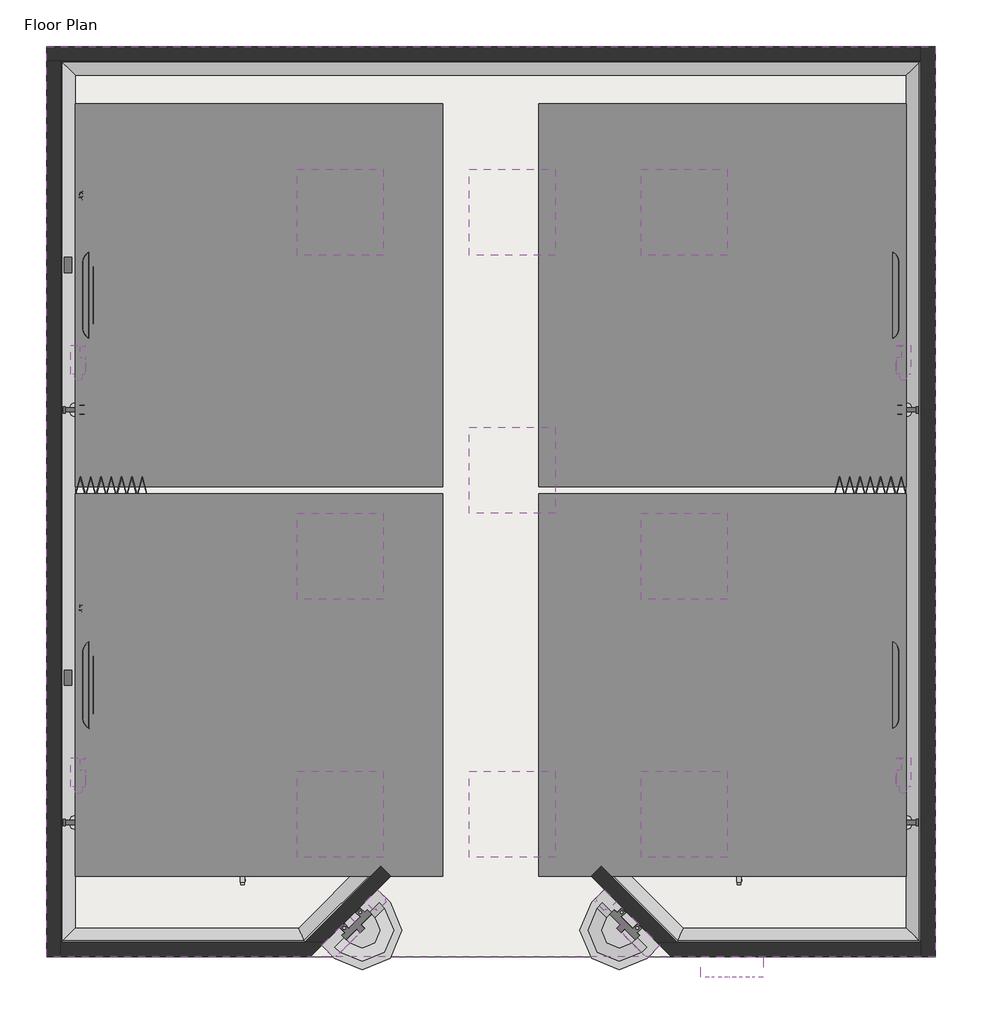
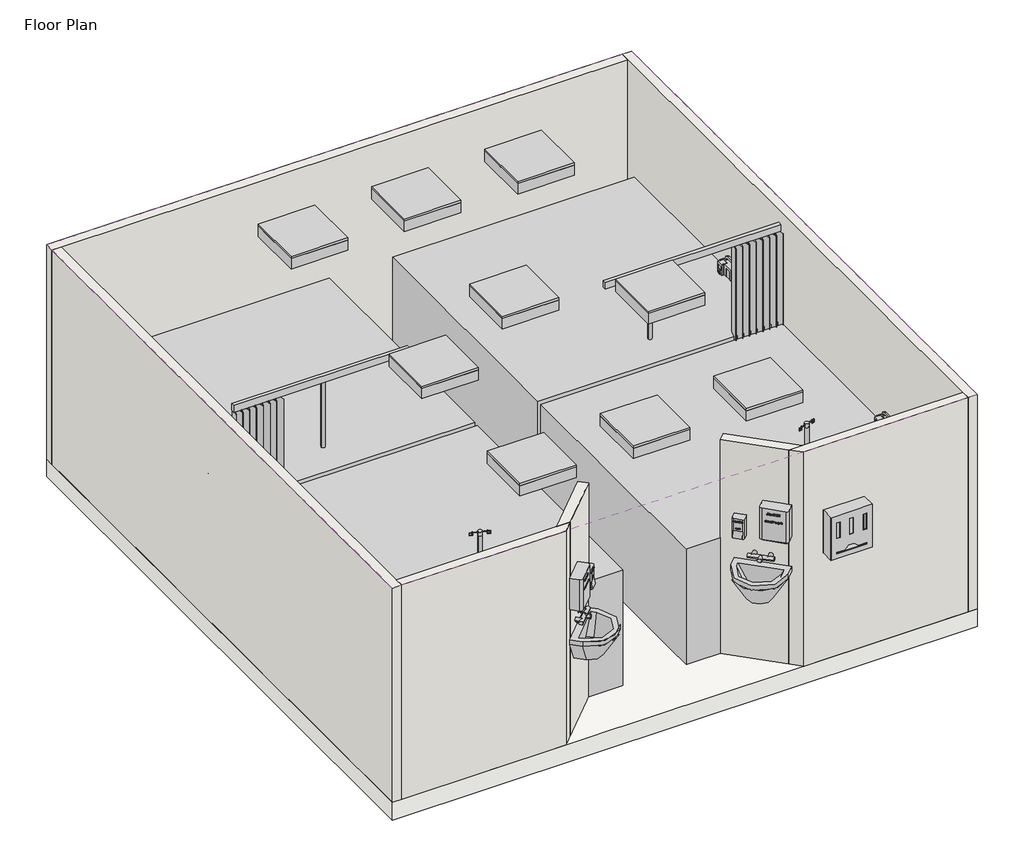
# One storey, incomplete: 26 proxies, 10 furniture elements, 9 light fixtures, 7 walls, 4 flow terminals, 2 slabs, 1 covering.
"""IFC4 building model written with IfcOpenShell, lengths in millimetres."""

from ifc_helpers import new_model, si_unit, frame, origin, place, context, project, spatial, polyline, circle_curve, ellipse_curve, outline, extrude, faceted_brep, transform, mapped, element, save
from ifc_brep_helpers import plane_surface, revolved_surface, advanced_brep
from components import generic_models_cb70edec, generic_models_69a9413b, generic_models_60647dcf, generic_models_1c4e6ef4, generic_models_b7986ebb, generic_models_4addcc0f, generic_models_37f5f703, generic_models_23b3e7a1, generic_models_7e8e4800, type_1_05e54dc7, flow_terminal_9bf15598, flow_terminal_f04b013f, flow_terminal_004a381b, flow_terminal_30861e1c, furniture_961e7f9c, furniture_c0bff915, furniture_4cbdd32b, furniture_c88544d2, furniture_2eee4971, furniture_ab3baf91, furniture_166ce8d1, furniture_26d36cfe, lighting_fixtures_troffer_parabolic_square_600x600mm_2_lamps_e1dca80e

model = new_model("IFC4")

# Units and contexts
model_context = context("Model", 3, world=origin())
ifc_project = project(units=[si_unit("LENGTHUNIT", "METRE", prefix="MILLI")], contexts=[model_context])

# Site, building, storey
site = spatial("IfcSite", under=ifc_project)
building = spatial("IfcBuilding", under=site)
storey = spatial("IfcBuildingStorey", under=building, Name="Floor Plan", Elevation=0.0)

# Proxies
placement = place(None, origin())
element("IfcBuildingElementProxy", 1, Name="Wall Sweeps", at=placement, inside=storey, context=model_context, shape_type="AdvancedBrep", body=[
    advanced_brep(
    [(7705.0, 1607.5, 0.0), (7705.0, 1607.5, 100.0), (7695.0, 1617.5, 100.0), (7605.0, 1707.5, 10.0), (7605.0, 1707.5, 0.0), (7705.0, 7757.5, 0.0), (7605.0, 7657.5, 0.0), (7605.0, 7657.5, 10.0), (7695.0, 7747.5, 100.0), (7705.0, 7757.5, 100.0)],
    [
        (0, 1),
        (1, 2),
        (2, 3, ellipse_curve(frame((7605.0, 1707.5, 100.0), z_axis=(0.7071067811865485, 0.7071067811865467, 0.0), x_axis=(-0.7071067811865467, 0.7071067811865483, 0.0)), 127.2792206, 90.0)),
        (3, 4),
        (4, 0),
        (5, 6),
        (6, 7),
        (7, 8, ellipse_curve(frame((7605.0, 7657.5, 100.0), z_axis=(0.7071067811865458, -0.7071067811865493, 0.0), x_axis=(0.7071067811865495, 0.7071067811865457, 0.0)), 127.2792206, 90.0)),
        (8, 9),
        (9, 5),
        (0, 5),
        (9, 1),
        (8, 2),
        (7, 3),
        (6, 4),
    ],
    [
        plane_surface(frame((7705.0, 1607.5, -304.8), z_axis=(-0.7071067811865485, -0.7071067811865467, 0.0), x_axis=(-0.7071067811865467, 0.7071067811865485, 0.0))),
        plane_surface(frame((7705.0, 7757.5, -304.8), z_axis=(-0.7071067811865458, 0.7071067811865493, 0.0), x_axis=(-0.7071067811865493, -0.7071067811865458, 0.0))),
        plane_surface(frame((7705.0, 1607.5, 0.0), z_axis=(1.0, 0.0, 0.0), x_axis=(0.0, 1.0, 0.0))),
        plane_surface(frame((7705.0, 1607.5, 100.0), z_axis=(0.0, 0.0, 1.0), x_axis=(0.0, 1.0, 0.0))),
        revolved_surface(polyline([(7515.0, 7747.5, 100.0), (7515.0, 1617.5, 100.0)]), (7605.0, 1607.5, 100.0), (0.0, 1.0, 0.0)),
        plane_surface(frame((7605.0, 1707.5, 10.0), z_axis=(-1.0, 0.0, 0.0), x_axis=(0.0, 1.0, 0.0))),
        plane_surface(frame((7605.0, 1707.5, 0.0), z_axis=(0.0, 0.0, -1.0), x_axis=(0.0, 1.0, 0.0))),
    ],
    [
        (0, [[1, 2, 3, 4, 5]]),
        (1, [[6, 7, 8, 9, 10]]),
        (2, [[-1, 11, -10, 12]]),
        (3, [[-2, -12, -9, 13]]),
        (4, [[-3, -13, -8, 14]]),
        (5, [[-4, -14, -7, 15]]),
        (6, [[-5, -15, -6, -11]]),
    ],
),
])
element("IfcBuildingElementProxy", 2, Name="Wall Sweeps", at=placement, inside=storey, context=model_context, shape_type="AdvancedBrep", body=[
    advanced_brep(
    [(7705.0, 7757.5, 0.0), (7705.0, 7757.5, 100.0), (7695.0, 7747.5, 100.0), (7605.0, 7657.5, 10.0), (7605.0, 7657.5, 0.0), (1705.0, 7757.5, 0.0), (1805.0, 7657.5, 0.0), (1805.0, 7657.5, 10.0), (1715.0, 7747.5, 100.0), (1705.0, 7757.5, 100.0)],
    [
        (0, 1),
        (1, 2),
        (2, 3, ellipse_curve(frame((7605.0, 7657.5, 100.0), z_axis=(-0.7071067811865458, 0.7071067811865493, 0.0), x_axis=(-0.7071067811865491, -0.7071067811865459, 0.0)), 127.2792206, 90.0)),
        (3, 4),
        (4, 0),
        (5, 6),
        (6, 7),
        (7, 8, ellipse_curve(frame((1805.0, 7657.5, 100.0), z_axis=(0.7071067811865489, 0.7071067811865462, 0.0), x_axis=(-0.7071067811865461, 0.7071067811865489, 0.0)), 127.2792206, 90.0)),
        (8, 9),
        (9, 5),
        (0, 5),
        (9, 1),
        (8, 2),
        (7, 3),
        (6, 4),
    ],
    [
        plane_surface(frame((7705.0, 7757.5, -304.8), z_axis=(0.7071067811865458, -0.7071067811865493, 0.0), x_axis=(-0.7071067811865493, -0.7071067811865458, 0.0))),
        plane_surface(frame((1705.0, 7757.5, -304.8), z_axis=(-0.7071067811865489, -0.7071067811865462, 0.0), x_axis=(0.7071067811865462, -0.7071067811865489, 0.0))),
        plane_surface(frame((7705.0, 7757.5, 0.0), z_axis=(0.0, 1.0, 0.0), x_axis=(-1.0, 0.0, 0.0))),
        plane_surface(frame((7705.0, 7757.5, 100.0), z_axis=(0.0, 0.0, 1.0), x_axis=(-1.0, 0.0, 0.0))),
        revolved_surface(polyline([(1715.0, 7567.5, 100.0), (7695.0, 7567.5, 100.0)]), (7705.0, 7657.5, 100.0), (-1.0, 0.0, 0.0)),
        plane_surface(frame((7605.0, 7657.5, 10.0), z_axis=(0.0, -1.0, 0.0), x_axis=(-1.0, 0.0, 0.0))),
        plane_surface(frame((7605.0, 7657.5, 0.0), z_axis=(0.0, 0.0, -1.0), x_axis=(-1.0, 0.0, 0.0))),
    ],
    [
        (0, [[1, 2, 3, 4, 5]]),
        (1, [[6, 7, 8, 9, 10]]),
        (2, [[-1, 11, -10, 12]]),
        (3, [[-2, -12, -9, 13]]),
        (4, [[-3, -13, -8, 14]]),
        (5, [[-4, -14, -7, 15]]),
        (6, [[-5, -15, -6, -11]]),
    ],
),
])
element("IfcBuildingElementProxy", 3, Name="Wall Sweeps", at=placement, inside=storey, context=model_context, shape_type="AdvancedBrep", body=[
    advanced_brep(
    [(1705.0, 1607.5, 0.0), (1805.0, 1707.5, 0.0), (1805.0, 1707.5, 10.0), (1715.0, 1617.5, 100.0), (1705.0, 1607.5, 100.0), (1705.0, 7757.5, 0.0), (1705.0, 7757.5, 100.0), (1715.0, 7747.5, 100.0), (1805.0, 7657.5, 10.0), (1805.0, 7657.5, 0.0)],
    [
        (0, 1),
        (1, 2),
        (2, 3, ellipse_curve(frame((1805.0, 1707.5, 100.0), z_axis=(-0.707106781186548, 0.7071067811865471, 0.0), x_axis=(0.7071067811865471, 0.7071067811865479, 0.0)), 127.2792206, 90.0)),
        (3, 4),
        (4, 0),
        (5, 6),
        (6, 7),
        (7, 8, ellipse_curve(frame((1805.0, 7657.5, 100.0), z_axis=(-0.7071067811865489, -0.7071067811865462, 0.0), x_axis=(-0.7071067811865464, 0.7071067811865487, 0.0)), 127.2792206, 90.0)),
        (8, 9),
        (9, 5),
        (4, 6),
        (5, 0),
        (3, 7),
        (2, 8),
        (1, 9),
    ],
    [
        plane_surface(frame((1705.0, 1607.5, 304.8), z_axis=(0.707106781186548, -0.7071067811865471, 0.0), x_axis=(0.7071067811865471, 0.707106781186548, 0.0))),
        plane_surface(frame((1705.0, 7757.5, 304.8), z_axis=(0.7071067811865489, 0.7071067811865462, 0.0), x_axis=(0.7071067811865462, -0.7071067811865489, 0.0))),
        plane_surface(frame((1705.0, 1607.5, 100.0), z_axis=(-1.0, 0.0, 0.0), x_axis=(0.0, 1.0, 0.0))),
        plane_surface(frame((1715.0, 1617.5, 100.0), z_axis=(0.0, 0.0, 1.0), x_axis=(0.0, 1.0, 0.0))),
        revolved_surface(polyline([(1895.0, 7747.5, 100.0), (1895.0, 1617.5, 100.0)]), (1805.0, 1607.5, 100.0), (0.0, 1.0, 0.0)),
        plane_surface(frame((1805.0, 1707.5, 0.0), z_axis=(1.0, 0.0, 0.0), x_axis=(0.0, 1.0, 0.0))),
        plane_surface(frame((1705.0, 1607.5, 0.0), z_axis=(0.0, 0.0, -1.0), x_axis=(0.0, 1.0, 0.0))),
    ],
    [
        (0, [[1, 2, 3, 4, 5]]),
        (1, [[6, 7, 8, 9, 10]]),
        (2, [[-5, 11, -6, 12]]),
        (3, [[-4, 13, -7, -11]]),
        (4, [[-3, 14, -8, -13]]),
        (5, [[-2, 15, -9, -14]]),
        (6, [[-1, -12, -10, -15]]),
    ],
),
])
element("IfcBuildingElementProxy", 4, Name="Wall Sweeps", at=placement, inside=storey, context=model_context, shape_type="AdvancedBrep", body=[
    advanced_brep(
    [(1705.0, 1607.5, 0.0), (1705.0, 1607.5, 100.0), (1715.0, 1617.5, 100.0), (1805.0, 1707.5, 10.0), (1805.0, 1707.5, 0.0), (3405.0, 1607.5, 0.0), (3363.5786438, 1707.5, 0.0), (3363.5786438, 1707.5, 10.0), (3400.8578644, 1617.5, 100.0), (3405.0, 1607.5, 100.0)],
    [
        (0, 1),
        (1, 2),
        (2, 3, ellipse_curve(frame((1805.0, 1707.5, 100.0), z_axis=(0.707106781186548, -0.7071067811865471, 0.0), x_axis=(0.707106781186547, 0.707106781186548, 0.0)), 127.2792206, 90.0)),
        (3, 4),
        (4, 0),
        (5, 6),
        (6, 7),
        (7, 8, ellipse_curve(frame((3363.5786438, 1707.5, 100.0), z_axis=(-0.923879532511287, -0.3826834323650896, 0.0), x_axis=(0.38268343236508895, -0.9238795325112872, 0.0)), 97.415298, 90.0)),
        (8, 9),
        (9, 5),
        (0, 5),
        (9, 1),
        (8, 2),
        (7, 3),
        (6, 4),
    ],
    [
        plane_surface(frame((1705.0, 1607.5, -304.8), z_axis=(-0.707106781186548, 0.7071067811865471, 0.0), x_axis=(0.7071067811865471, 0.707106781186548, 0.0))),
        plane_surface(frame((3405.0, 1607.5, -304.8), z_axis=(0.923879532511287, 0.3826834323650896, 0.0), x_axis=(-0.3826834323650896, 0.923879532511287, 0.0))),
        plane_surface(frame((1705.0, 1607.5, 0.0), z_axis=(0.0, -1.0, 0.0), x_axis=(1.0, 0.0, 0.0))),
        plane_surface(frame((1705.0, 1607.5, 100.0), z_axis=(0.0, 0.0, 1.0), x_axis=(1.0, 0.0, 0.0))),
        revolved_surface(polyline([(3400.857864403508, 1797.5, 100.0), (1715.0, 1797.5, 100.0)]), (1705.0, 1707.5, 100.0), (1.0, 0.0, 0.0)),
        plane_surface(frame((1805.0, 1707.5, 10.0), z_axis=(0.0, 1.0, 0.0), x_axis=(1.0, 0.0, 0.0))),
        plane_surface(frame((1805.0, 1707.5, 0.0), z_axis=(0.0, 0.0, -1.0), x_axis=(1.0, 0.0, 0.0))),
    ],
    [
        (0, [[1, 2, 3, 4, 5]]),
        (1, [[6, 7, 8, 9, 10]]),
        (2, [[-1, 11, -10, 12]]),
        (3, [[-2, -12, -9, 13]]),
        (4, [[-3, -13, -8, 14]]),
        (5, [[-4, -14, -7, 15]]),
        (6, [[-5, -15, -6, -11]]),
    ],
),
])
element("IfcBuildingElementProxy", 5, Name="Wall Sweeps", at=placement, inside=storey, context=model_context, shape_type="AdvancedBrep", body=[
    advanced_brep(
    [(3405.0, 1607.5, 0.0), (3405.0, 1607.5, 100.0), (3400.8578644, 1617.5, 100.0), (3363.5786438, 1707.5, 10.0), (3363.5786438, 1707.5, 0.0), (3935.3300859, 2137.8300859, 0.0), (3864.6194078, 2208.540764, 0.0), (3864.6194078, 2208.540764, 10.0), (3928.2590181, 2144.9011537, 100.0), (3935.3300859, 2137.8300859, 100.0)],
    [
        (0, 1),
        (1, 2),
        (2, 3, ellipse_curve(frame((3363.5786438, 1707.5, 100.0), z_axis=(0.923879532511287, 0.3826834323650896, 0.0), x_axis=(-0.3826834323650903, 0.9238795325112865, 0.0)), 97.415298, 90.0)),
        (3, 4),
        (4, 0),
        (5, 6),
        (6, 7),
        (7, 8, circle_curve(frame((3864.6194078, 2208.540764, 100.0), z_axis=(-0.7071067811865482, -0.7071067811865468, 0.0), x_axis=(-0.7071067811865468, 0.7071067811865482, 0.0)), 90.0)),
        (8, 9),
        (9, 5),
        (0, 5),
        (9, 1),
        (8, 2),
        (7, 3),
        (6, 4),
    ],
    [
        plane_surface(frame((3405.0, 1607.5, -304.8), z_axis=(-0.923879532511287, -0.3826834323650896, 0.0), x_axis=(-0.3826834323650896, 0.923879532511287, 0.0))),
        plane_surface(frame((3935.3300859, 2137.8300859, 100.4987562), z_axis=(0.7071067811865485, 0.7071067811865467, 0.0), x_axis=(0.7071067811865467, -0.7071067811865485, 0.0))),
        plane_surface(frame((3405.0, 1607.5, 0.0), z_axis=(0.7071067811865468, -0.7071067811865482, 0.0), x_axis=(0.7071067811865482, 0.7071067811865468, 0.0))),
        plane_surface(frame((3405.0, 1607.5, 100.0), z_axis=(0.0, 0.0, 1.0), x_axis=(0.7071067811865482, 0.7071067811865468, 0.0))),
        revolved_surface(polyline([(3800.9797974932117, 2272.180374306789, 100.0), (3273.5786437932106, 1744.7792206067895, 100.0)]), (3334.2893219, 1678.2106781, 100.0), (0.7071067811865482, 0.7071067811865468, 0.0)),
        plane_surface(frame((3363.5786438, 1707.5, 10.0), z_axis=(-0.7071067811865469, 0.7071067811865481, 0.0), x_axis=(0.7071067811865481, 0.7071067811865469, 0.0))),
        plane_surface(frame((3363.5786438, 1707.5, 0.0), z_axis=(0.0, 0.0, -1.0), x_axis=(0.7071067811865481, 0.7071067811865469, 0.0))),
    ],
    [
        (0, [[1, 2, 3, 4, 5]]),
        (1, [[6, 7, 8, 9, 10]]),
        (2, [[-1, 11, -10, 12]]),
        (3, [[-2, -12, -9, 13]]),
        (4, [[-3, -13, -8, 14]]),
        (5, [[-4, -14, -7, 15]]),
        (6, [[-5, -15, -6, -11]]),
    ],
),
])
element("IfcBuildingElementProxy", 6, Name="Wall Sweeps", at=placement, inside=storey, context=model_context, shape_type="AdvancedBrep", body=[
    advanced_brep(
    [(7705.0, 1607.5, 0.0), (7605.0, 1707.5, 0.0), (7605.0, 1707.5, 10.0), (7695.0, 1617.5, 100.0), (7705.0, 1607.5, 100.0), (6005.0, 1607.5, 0.0), (6005.0, 1607.5, 100.0), (6009.1421356, 1617.5, 100.0), (6046.4213562, 1707.5, 10.0), (6046.4213562, 1707.5, 0.0)],
    [
        (0, 1),
        (1, 2),
        (2, 3, ellipse_curve(frame((7605.0, 1707.5, 100.0), z_axis=(-0.7071067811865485, -0.7071067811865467, 0.0), x_axis=(-0.7071067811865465, 0.7071067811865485, 0.0)), 127.2792206, 90.0)),
        (3, 4),
        (4, 0),
        (5, 6),
        (6, 7),
        (7, 8, ellipse_curve(frame((6046.4213562, 1707.5, 100.0), z_axis=(0.9238795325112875, -0.38268343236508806, 0.0), x_axis=(-0.38268343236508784, -0.9238795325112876, 0.0)), 97.415298, 90.0)),
        (8, 9),
        (9, 5),
        (4, 6),
        (5, 0),
        (3, 7),
        (2, 8),
        (1, 9),
    ],
    [
        plane_surface(frame((7705.0, 1607.5, 304.8), z_axis=(0.7071067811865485, 0.7071067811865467, 0.0), x_axis=(-0.7071067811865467, 0.7071067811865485, 0.0))),
        plane_surface(frame((6005.0, 1607.5, 304.8), z_axis=(-0.9238795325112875, 0.38268343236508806, 0.0), x_axis=(0.38268343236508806, 0.9238795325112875, 0.0))),
        plane_surface(frame((7705.0, 1607.5, 100.0), z_axis=(0.0, -1.0, 0.0), x_axis=(-1.0, 0.0, 0.0))),
        plane_surface(frame((7695.0, 1617.5, 100.0), z_axis=(0.0, 0.0, 1.0), x_axis=(-1.0, 0.0, 0.0))),
        revolved_surface(polyline([(6009.142135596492, 1797.5, 100.0), (7695.0, 1797.5, 100.0)]), (7705.0, 1707.5, 100.0), (-1.0, 0.0, 0.0)),
        plane_surface(frame((7605.0, 1707.5, 0.0), z_axis=(0.0, 1.0, 0.0), x_axis=(-1.0, 0.0, 0.0))),
        plane_surface(frame((7705.0, 1607.5, 0.0), z_axis=(0.0, 0.0, -1.0), x_axis=(-1.0, 0.0, 0.0))),
    ],
    [
        (0, [[1, 2, 3, 4, 5]]),
        (1, [[6, 7, 8, 9, 10]]),
        (2, [[-5, 11, -6, 12]]),
        (3, [[-4, 13, -7, -11]]),
        (4, [[-3, 14, -8, -13]]),
        (5, [[-2, 15, -9, -14]]),
        (6, [[-1, -12, -10, -15]]),
    ],
),
])
element("IfcBuildingElementProxy", 7, Name="Wall Sweeps", at=placement, inside=storey, context=model_context, shape_type="AdvancedBrep", body=[
    advanced_brep(
    [(6005.0, 1607.5, 0.0), (6046.4213562, 1707.5, 0.0), (6046.4213562, 1707.5, 10.0), (6009.1421356, 1617.5, 100.0), (6005.0, 1607.5, 100.0), (5474.6699141, 2137.8300859, 0.0), (5474.6699141, 2137.8300859, 100.0), (5481.7409819, 2144.9011537, 100.0), (5545.3805922, 2208.540764, 10.0), (5545.3805922, 2208.540764, 0.0)],
    [
        (0, 1),
        (1, 2),
        (2, 3, ellipse_curve(frame((6046.4213562, 1707.5, 100.0), z_axis=(-0.9238795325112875, 0.38268343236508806, 0.0), x_axis=(0.38268343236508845, 0.9238795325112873, 0.0)), 97.415298, 90.0)),
        (3, 4),
        (4, 0),
        (5, 6),
        (6, 7),
        (7, 8, circle_curve(frame((5545.3805922, 2208.540764, 100.0), z_axis=(0.7071067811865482, -0.7071067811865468, 0.0), x_axis=(0.7071067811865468, 0.7071067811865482, 0.0)), 90.0)),
        (8, 9),
        (9, 5),
        (4, 6),
        (5, 0),
        (3, 7),
        (2, 8),
        (1, 9),
    ],
    [
        plane_surface(frame((6005.0, 1607.5, 304.8), z_axis=(0.9238795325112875, -0.38268343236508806, 0.0), x_axis=(0.38268343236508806, 0.9238795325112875, 0.0))),
        plane_surface(frame((5474.6699141, 2137.8300859, 100.4987562), z_axis=(-0.7071067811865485, 0.7071067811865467, 0.0), x_axis=(0.7071067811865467, 0.7071067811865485, 0.0))),
        plane_surface(frame((6005.0, 1607.5, 100.0), z_axis=(-0.707106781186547, -0.7071067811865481, 0.0), x_axis=(-0.7071067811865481, 0.707106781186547, 0.0))),
        plane_surface(frame((6009.1421356, 1617.5, 100.0), z_axis=(0.0, 0.0, 1.0000000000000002), x_axis=(-0.7071067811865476, 0.7071067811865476, 0.0))),
        revolved_surface(polyline([(5609.020202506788, 2272.180374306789, 100.0), (6136.421356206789, 1744.7792206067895, 100.0)]), (6075.7106781, 1678.2106781, 100.0), (-0.7071067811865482, 0.7071067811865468, 0.0)),
        plane_surface(frame((6046.4213562, 1707.5, 0.0), z_axis=(0.7071067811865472, 0.7071067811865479, 0.0), x_axis=(-0.7071067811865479, 0.7071067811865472, 0.0))),
        plane_surface(frame((6005.0, 1607.5, 0.0), z_axis=(0.0, 0.0, -1.0000000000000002), x_axis=(-0.7071067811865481, 0.707106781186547, 0.0))),
    ],
    [
        (0, [[1, 2, 3, 4, 5]]),
        (1, [[6, 7, 8, 9, 10]]),
        (2, [[-5, 11, -6, 12]]),
        (3, [[-4, 13, -7, -11]]),
        (4, [[-3, 14, -8, -13]]),
        (5, [[-2, 15, -9, -14]]),
        (6, [[-1, -12, -10, -15]]),
    ],
),
])
generic_models_shape = generic_models_cb70edec(model_context)
element("IfcBuildingElementProxy", 8, Name="BIMHealth-IV_Pump-LOD2A-v1 : BIMHealth-IV_Pump-LOD2A-v1", ObjectType="BIMHealth-IV_Pump-LOD2A-v1 : BIMHealth-IV_Pump-LOD2A-v1", at=placement, inside=storey, context=model_context, shape_type="MappedRepresentation", body=[
    mapped(generic_models_shape, transform((1773.7887439, 2692.5, 0.0), x_axis=(0.0, 1.0, 0.0), y_axis=(-1.0, 0.0, 0.0), z_axis=(0.0, 0.0, 1.0))),
])
element("IfcBuildingElementProxy", 9, Name="BIMHealth-IV_Pump-LOD2A-v1 : BIMHealth-IV_Pump-LOD2A-v1", ObjectType="BIMHealth-IV_Pump-LOD2A-v1 : BIMHealth-IV_Pump-LOD2A-v1", at=placement, inside=storey, context=model_context, shape_type="MappedRepresentation", body=[
    mapped(generic_models_shape, transform((1773.7887439, 5572.5, 0.0), x_axis=(0.0, 1.0, 0.0), y_axis=(-1.0, 0.0, 0.0), z_axis=(0.0, 0.0, 1.0))),
])
generic_models_2_shape = generic_models_69a9413b(model_context)
element("IfcBuildingElementProxy", 10, Name="BIMHealth-Drip_Stand-LOD2A-v1 : BIMHealth-Drip_Stand-LOD2A-v1", ObjectType="BIMHealth-Drip_Stand-LOD2A-v1 : BIMHealth-Drip_Stand-LOD2A-v1", at=placement, inside=storey, context=model_context, shape_type="MappedRepresentation", body=[
    mapped(generic_models_2_shape, transform((2972.893231, 2269.9598867, 0.0), x_axis=(1.0, 0.0, 0.0), y_axis=(0.0, 1.0, 0.0), z_axis=(0.0, 0.0, 1.0))),
])
element("IfcBuildingElementProxy", 11, Name="BIMHealth-Drip_Stand-LOD2A-v1 : BIMHealth-Drip_Stand-LOD2A-v1", ObjectType="BIMHealth-Drip_Stand-LOD2A-v1 : BIMHealth-Drip_Stand-LOD2A-v1", at=placement, inside=storey, context=model_context, shape_type="MappedRepresentation", body=[
    mapped(generic_models_2_shape, transform((2972.893231, 5149.9598867, 0.0), x_axis=(1.0, 0.0, 0.0), y_axis=(0.0, 1.0, 0.0), z_axis=(0.0, 0.0, 1.0))),
])
generic_models_3_shape = generic_models_60647dcf(model_context)
element("IfcBuildingElementProxy", 12, Name="BIMHealth-Flowmeter_Oxygen-LOD2A-v1 : BIMHealth-Flowmeter_Oxygen-LOD2A-v1", ObjectType="BIMHealth-Flowmeter_Oxygen-LOD2A-v1 : BIMHealth-Flowmeter_Oxygen-LOD2A-v1", at=placement, inside=storey, context=model_context, shape_type="MappedRepresentation", body=[
    mapped(generic_models_3_shape, transform((1867.9451551, 2576.5548449, 0.0), x_axis=(0.0, -1.0, 0.0), y_axis=(1.0, 0.0, 0.0), z_axis=(0.0, 0.0, 1.0))),
])
element("IfcBuildingElementProxy", 13, Name="BIMHealth-Flowmeter_Oxygen-LOD2A-v1 : BIMHealth-Flowmeter_Oxygen-LOD2A-v1", ObjectType="BIMHealth-Flowmeter_Oxygen-LOD2A-v1 : BIMHealth-Flowmeter_Oxygen-LOD2A-v1", at=placement, inside=storey, context=model_context, shape_type="MappedRepresentation", body=[
    mapped(generic_models_3_shape, transform((1867.9451551, 5456.5548449, 0.0), x_axis=(0.0, -1.0, 0.0), y_axis=(1.0, 0.0, 0.0), z_axis=(0.0, 0.0, 1.0))),
])
generic_models_4_shape = generic_models_1c4e6ef4(model_context)
element("IfcBuildingElementProxy", 14, Name="BIMHealth-Flowmeter_Suction-LOD2A-v1 : BIMHealth-Flowmeter_Suction-LOD2A-v1", ObjectType="BIMHealth-Flowmeter_Suction-LOD2A-v1 : BIMHealth-Flowmeter_Suction-LOD2A-v1", at=placement, inside=storey, context=model_context, shape_type="MappedRepresentation", body=[
    mapped(generic_models_4_shape, transform((1836.579015, 2444.079015, 0.0), x_axis=(0.0, 1.0000000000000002, 0.0), y_axis=(-1.0000000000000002, 0.0, 0.0), z_axis=(0.0, 0.0, 1.0))),
])
element("IfcBuildingElementProxy", 15, Name="BIMHealth-Flowmeter_Suction-LOD2A-v1 : BIMHealth-Flowmeter_Suction-LOD2A-v1", ObjectType="BIMHealth-Flowmeter_Suction-LOD2A-v1 : BIMHealth-Flowmeter_Suction-LOD2A-v1", at=placement, inside=storey, context=model_context, shape_type="MappedRepresentation", body=[
    mapped(generic_models_4_shape, transform((1836.579015, 5324.079015, 0.0), x_axis=(0.0, 1.0000000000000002, 0.0), y_axis=(-1.0000000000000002, 0.0, 0.0), z_axis=(0.0, 0.0, 1.0))),
])
generic_models_5_shape = generic_models_b7986ebb(model_context)
element("IfcBuildingElementProxy", 16, Name="BIMHealth-Drip_Stand-LOD2A-v1 : BIMHealth-Drip_Stand-LOD2A-v1", ObjectType="BIMHealth-Drip_Stand-LOD2A-v1 : BIMHealth-Drip_Stand-LOD2A-v1", at=placement, inside=storey, context=model_context, shape_type="MappedRepresentation", body=[
    mapped(generic_models_5_shape, transform((6437.106769, 2269.9598867, 0.0), x_axis=(-1.0, 0.0, 0.0), y_axis=(0.0, -1.0, 0.0), z_axis=(0.0, 0.0, 1.0))),
])
element("IfcBuildingElementProxy", 17, Name="BIMHealth-Drip_Stand-LOD2A-v1 : BIMHealth-Drip_Stand-LOD2A-v1", ObjectType="BIMHealth-Drip_Stand-LOD2A-v1 : BIMHealth-Drip_Stand-LOD2A-v1", at=placement, inside=storey, context=model_context, shape_type="MappedRepresentation", body=[
    mapped(generic_models_5_shape, transform((6437.106769, 5149.9598867, 0.0), x_axis=(-1.0, 0.0, 0.0), y_axis=(0.0, -1.0, 0.0), z_axis=(0.0, 0.0, 1.0))),
])
generic_models_6_shape = generic_models_4addcc0f(model_context)
element("IfcBuildingElementProxy", 18, Name="BIMHealth-Flowmeter_Suction-LOD2A-v1 : BIMHealth-Flowmeter_Suction-LOD2A-v1", ObjectType="BIMHealth-Flowmeter_Suction-LOD2A-v1 : BIMHealth-Flowmeter_Suction-LOD2A-v1", at=placement, inside=storey, context=model_context, shape_type="MappedRepresentation", body=[
    mapped(generic_models_6_shape, transform((7573.420985, 2444.079015, 0.0), x_axis=(0.0, 1.0000000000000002, 0.0), y_axis=(-1.0000000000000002, 0.0, 0.0), z_axis=(0.0, 0.0, 1.0))),
])
element("IfcBuildingElementProxy", 19, Name="BIMHealth-Flowmeter_Suction-LOD2A-v1 : BIMHealth-Flowmeter_Suction-LOD2A-v1", ObjectType="BIMHealth-Flowmeter_Suction-LOD2A-v1 : BIMHealth-Flowmeter_Suction-LOD2A-v1", at=placement, inside=storey, context=model_context, shape_type="MappedRepresentation", body=[
    mapped(generic_models_6_shape, transform((7573.420985, 5324.079015, 0.0), x_axis=(0.0, 1.0000000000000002, 0.0), y_axis=(-1.0000000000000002, 0.0, 0.0), z_axis=(0.0, 0.0, 1.0))),
])
generic_models_7_shape = generic_models_37f5f703(model_context)
element("IfcBuildingElementProxy", 20, Name="BIMHealth-Flowmeter_Oxygen-LOD2A-v1 : BIMHealth-Flowmeter_Oxygen-LOD2A-v1", ObjectType="BIMHealth-Flowmeter_Oxygen-LOD2A-v1 : BIMHealth-Flowmeter_Oxygen-LOD2A-v1", at=placement, inside=storey, context=model_context, shape_type="MappedRepresentation", body=[
    mapped(generic_models_7_shape, transform((7542.0548449, 2576.5548449, 0.0), x_axis=(0.0, -1.0, 0.0), y_axis=(1.0, 0.0, 0.0), z_axis=(0.0, 0.0, 1.0))),
])
element("IfcBuildingElementProxy", 21, Name="BIMHealth-Flowmeter_Oxygen-LOD2A-v1 : BIMHealth-Flowmeter_Oxygen-LOD2A-v1", ObjectType="BIMHealth-Flowmeter_Oxygen-LOD2A-v1 : BIMHealth-Flowmeter_Oxygen-LOD2A-v1", at=placement, inside=storey, context=model_context, shape_type="MappedRepresentation", body=[
    mapped(generic_models_7_shape, transform((7542.0548449, 5456.5548449, 0.0), x_axis=(0.0, -1.0, 0.0), y_axis=(1.0, 0.0, 0.0), z_axis=(0.0, 0.0, 1.0))),
])
generic_models_8_shape = generic_models_23b3e7a1(model_context)
element("IfcBuildingElementProxy", 22, Name="BIMHealth-IV_Pump-LOD2A-v1 : BIMHealth-IV_Pump-LOD2A-v1", ObjectType="BIMHealth-IV_Pump-LOD2A-v1 : BIMHealth-IV_Pump-LOD2A-v1", at=placement, inside=storey, context=model_context, shape_type="MappedRepresentation", body=[
    mapped(generic_models_8_shape, transform((7636.2112561, 2692.5, 0.0), x_axis=(0.0, 1.0, 0.0), y_axis=(-1.0, 0.0, 0.0), z_axis=(0.0, 0.0, 1.0))),
])
element("IfcBuildingElementProxy", 23, Name="BIMHealth-IV_Pump-LOD2A-v1 : BIMHealth-IV_Pump-LOD2A-v1", ObjectType="BIMHealth-IV_Pump-LOD2A-v1 : BIMHealth-IV_Pump-LOD2A-v1", at=placement, inside=storey, context=model_context, shape_type="MappedRepresentation", body=[
    mapped(generic_models_8_shape, transform((7636.2112561, 5572.5, 0.0), x_axis=(0.0, 1.0, 0.0), y_axis=(-1.0, 0.0, 0.0), z_axis=(0.0, 0.0, 1.0))),
])
generic_models_9_shape = generic_models_7e8e4800(model_context)
element("IfcBuildingElementProxy", 24, Name="BIMHealth-Danicentre_ppe_Dispenser-LOD2A-v1 : BIMHealth-Danicentre_ppe_Dispenser-LOD2A-v1", ObjectType="BIMHealth-Danicentre_ppe_Dispenser-LOD2A-v1 : BIMHealth-Danicentre_ppe_Dispenser-LOD2A-v1", at=placement, inside=storey, context=model_context, shape_type="MappedRepresentation", body=[
    mapped(generic_models_9_shape, transform((6605.5947115, 1362.5, 0.0), x_axis=(-1.0, 0.0, 0.0), y_axis=(0.0, -1.0, 0.0), z_axis=(0.0, 0.0, 1.0))),
])
type_1_shape = type_1_05e54dc7(model_context)
element("IfcBuildingElementProxy", 25, Name="BIMHealth-Reading_Lamp_Wall_Mounted-LOD2A-v1 : Type 1", ObjectType="BIMHealth-Reading_Lamp_Wall_Mounted-LOD2A-v1 : Type 1", at=placement, inside=storey, context=model_context, shape_type="MappedRepresentation", body=[
    mapped(type_1_shape, transform((1655.0, 3578.5472266, -120.0), x_axis=(0.0, -1.0, 0.0), y_axis=(1.0, 0.0, 0.0), z_axis=(0.0, 0.0, 1.0))),
])
element("IfcBuildingElementProxy", 26, Name="BIMHealth-Reading_Lamp_Wall_Mounted-LOD2A-v1 : Type 1", ObjectType="BIMHealth-Reading_Lamp_Wall_Mounted-LOD2A-v1 : Type 1", at=placement, inside=storey, context=model_context, shape_type="MappedRepresentation", body=[
    mapped(type_1_shape, transform((1655.0, 6458.5472266, -120.0), x_axis=(0.0, -1.0, 0.0), y_axis=(1.0, 0.0, 0.0), z_axis=(0.0, 0.0, 1.0))),
])

# Covering
element("IfcCovering", 27, ObjectType="BIMHealth - Generic Ceiling", at=placement, inside=storey, context=model_context, shape_type="SweptSolid", body=[
    extrude(outline(polyline([(1605.0, 7857.5), (7805.0, 7857.5), (7805.0, 1507.5), (1605.0, 1507.5), (1605.0, 2915.0), (1605.0, 7857.5)]), holes=[polyline([(3955.0, 4000.0), (3955.0, 4600.0), (3355.0, 4600.0), (3355.0, 4000.0), (3955.0, 4000.0)]), polyline([(3955.0, 6400.0), (3955.0, 7000.0), (3355.0, 7000.0), (3355.0, 6400.0), (3955.0, 6400.0)]), polyline([(5155.0, 4600.0), (5155.0, 5200.0), (4555.0, 5200.0), (4555.0, 4600.0), (5155.0, 4600.0)]), polyline([(5155.0, 6400.0), (5155.0, 7000.0), (4555.0, 7000.0), (4555.0, 6400.0), (5155.0, 6400.0)]), polyline([(6355.0, 4600.0), (5755.0, 4600.0), (5755.0, 4000.0), (6355.0, 4000.0), (6355.0, 4600.0)]), polyline([(6355.0, 7000.0), (5755.0, 7000.0), (5755.0, 6400.0), (6355.0, 6400.0), (6355.0, 7000.0)]), polyline([(3955.0, 2200.0), (3955.0, 2800.0), (3355.0, 2800.0), (3355.0, 2200.0), (3955.0, 2200.0)]), polyline([(5155.0, 2200.0), (5155.0, 2800.0), (4555.0, 2800.0), (4555.0, 2200.0), (5155.0, 2200.0)]), polyline([(6355.0, 2200.0), (6355.0, 2800.0), (5755.0, 2800.0), (5755.0, 2200.0), (6355.0, 2200.0)])]), frame((0.0, 0.0, 2400.0), z_axis=(0.0, 0.0, 1.0), x_axis=(1.0, 0.0, 0.0)), (0.0, 0.0, 1.0), 52.0),
])

# Flow terminals
flow_terminal_shape = flow_terminal_9bf15598(model_context)
element("IfcFlowTerminal", 28, ObjectType="BIMHealth-Wash_basin-LOD2A-v1 : BIMHealth-Wash_basin-LOD2A-v1", at=placement, inside=storey, context=model_context, shape_type="MappedRepresentation", body=[
    mapped(flow_terminal_shape, transform((5884.8097039, 1586.2689399, 800.0), x_axis=(-0.7071067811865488, 0.7071067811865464, 0.0), y_axis=(-0.7071067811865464, -0.7071067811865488, 0.0), z_axis=(0.0, 0.0, 1.0))),
])
flow_terminal_2_shape = flow_terminal_f04b013f(model_context)
element("IfcFlowTerminal", 29, ObjectType="BIMHealth-Taps_IPS-LOD2A-v1 : BIMHealth-Taps_IPS-LOD2A-v1", at=placement, inside=storey, context=model_context, shape_type="MappedRepresentation", body=[
    mapped(flow_terminal_2_shape, transform((5551.7195228, 1818.8641838, 1200.0), x_axis=(0.7071067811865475, -0.7071067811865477, 0.0), y_axis=(0.7071067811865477, 0.7071067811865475, 0.0), z_axis=(0.0, 0.0, 1.0))),
])
flow_terminal_3_shape = flow_terminal_004a381b(model_context)
element("IfcFlowTerminal", 30, ObjectType="BIMHealth-Taps_IPS-LOD2A-v1 : BIMHealth-Taps_IPS-LOD2A-v1", at=placement, inside=storey, context=model_context, shape_type="MappedRepresentation", body=[
    mapped(flow_terminal_3_shape, transform((3858.2804772, 1818.8641838, 1200.0), x_axis=(-0.7071067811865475, -0.7071067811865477, 0.0), y_axis=(0.7071067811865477, -0.7071067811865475, 0.0), z_axis=(0.0, 0.0, 1.0))),
])
flow_terminal_4_shape = flow_terminal_30861e1c(model_context)
element("IfcFlowTerminal", 31, ObjectType="BIMHealth-Wash_basin-LOD2A-v1 : BIMHealth-Wash_basin-LOD2A-v1", at=placement, inside=storey, context=model_context, shape_type="MappedRepresentation", body=[
    mapped(flow_terminal_4_shape, transform((3525.1902961, 1586.2689399, 800.0), x_axis=(0.7071067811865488, 0.7071067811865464, 0.0), y_axis=(-0.7071067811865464, 0.7071067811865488, 0.0), z_axis=(0.0, 0.0, 1.0))),
])

# Furniture
furniture_shape = furniture_961e7f9c(model_context)
element("IfcFurniture", 32, ObjectType="BIMHealth-Chair_Dialysis-LOD2A-v1 : BIMHealth-Chair_Dialysis-LOD2A-v1", at=placement, inside=storey, context=model_context, shape_type="MappedRepresentation", body=[
    mapped(furniture_shape, transform((2489.2931688, 3402.5, 0.0), x_axis=(0.0, 1.0, 0.0), y_axis=(-1.0, 0.0, 0.0), z_axis=(0.0, 0.0, 1.0))),
])
element("IfcFurniture", 33, ObjectType="BIMHealth-Chair_Dialysis-LOD2A-v1 : BIMHealth-Chair_Dialysis-LOD2A-v1", at=placement, inside=storey, context=model_context, shape_type="MappedRepresentation", body=[
    mapped(furniture_shape, transform((2489.2931688, 6122.5, 0.0), x_axis=(0.0, 1.0, 0.0), y_axis=(-1.0, 0.0, 0.0), z_axis=(0.0, 0.0, 1.0))),
])
furniture_2_shape = furniture_c0bff915(model_context)
element("IfcFurniture", 34, ObjectType="BIMHealth-Paper_Towel_Dispenser-LOD2A-v1 : BIMHealth-Paper_Towel_Dispenser-LOD2A-v1", at=placement, inside=storey, context=model_context, shape_type="MappedRepresentation", body=[
    mapped(furniture_2_shape, transform((5884.8097039, 1586.2689399, 240.0), x_axis=(-0.7071067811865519, 0.7071067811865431, 0.0), y_axis=(-0.7071067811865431, -0.7071067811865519, 0.0), z_axis=(0.0, 0.0, 1.0))),
])
furniture_3_shape = furniture_4cbdd32b(model_context)
element("IfcFurniture", 35, ObjectType="BIMHealth-Soap_Dispenser-LOD2A-v1 : BIMHealth-Soap_Dispenser-LOD2A-v1", at=placement, inside=storey, context=model_context, shape_type="MappedRepresentation", body=[
    mapped(furniture_3_shape, transform((5580.753788, 1890.3248558, 180.0), x_axis=(-0.7071067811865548, 0.7071067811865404, 0.0), y_axis=(-0.7071067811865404, -0.7071067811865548, 0.0), z_axis=(0.0, 0.0, 1.0))),
])
furniture_4_shape = furniture_c88544d2(model_context)
element("IfcFurniture", 36, ObjectType="BIMHealth-Curtain_Dialysis-LOD2A-v1 : BIMHealth-Curtain_Dialysis-LOD2A-v1", at=placement, inside=storey, context=model_context, shape_type="MappedRepresentation", body=[
    mapped(furniture_4_shape, transform((1805.0, 4767.5, 0.0), x_axis=(1.0, 0.0, 0.0), y_axis=(0.0, 1.0, 0.0), z_axis=(0.0, 0.0, 1.0))),
])
furniture_5_shape = furniture_2eee4971(model_context)
element("IfcFurniture", 37, ObjectType="BIMHealth-Curtain_Dialysis-LOD2A-v1 : BIMHealth-Curtain_Dialysis-LOD2A-v1", at=placement, inside=storey, context=model_context, shape_type="MappedRepresentation", body=[
    mapped(furniture_5_shape, transform((7605.0, 4767.5, 0.0), x_axis=(-1.0, 0.0, 0.0), y_axis=(0.0, -1.0, 0.0), z_axis=(0.0, 0.0, 1.0))),
])
furniture_6_shape = furniture_ab3baf91(model_context)
element("IfcFurniture", 38, ObjectType="BIMHealth-Chair_Dialysis-LOD2A-v1 : BIMHealth-Chair_Dialysis-LOD2A-v1", at=placement, inside=storey, context=model_context, shape_type="MappedRepresentation", body=[
    mapped(furniture_6_shape, transform((6920.7068312, 3402.5, 0.0), x_axis=(0.0, 1.0, 0.0), y_axis=(-1.0, 0.0, 0.0), z_axis=(0.0, 0.0, 1.0))),
])
element("IfcFurniture", 39, ObjectType="BIMHealth-Chair_Dialysis-LOD2A-v1 : BIMHealth-Chair_Dialysis-LOD2A-v1", at=placement, inside=storey, context=model_context, shape_type="MappedRepresentation", body=[
    mapped(furniture_6_shape, transform((6920.7068312, 6122.5, 0.0), x_axis=(0.0, 1.0, 0.0), y_axis=(-1.0, 0.0, 0.0), z_axis=(0.0, 0.0, 1.0))),
])
furniture_7_shape = furniture_166ce8d1(model_context)
element("IfcFurniture", 40, ObjectType="BIMHealth-Paper_Towel_Dispenser-LOD2A-v1 : BIMHealth-Paper_Towel_Dispenser-LOD2A-v1", at=placement, inside=storey, context=model_context, shape_type="MappedRepresentation", body=[
    mapped(furniture_7_shape, transform((3525.1902961, 1586.2689399, 240.0), x_axis=(0.7071067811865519, 0.7071067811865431, 0.0), y_axis=(-0.7071067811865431, 0.7071067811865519, 0.0), z_axis=(0.0, 0.0, 1.0))),
])
furniture_8_shape = furniture_26d36cfe(model_context)
element("IfcFurniture", 41, ObjectType="BIMHealth-Soap_Dispenser-LOD2A-v1 : BIMHealth-Soap_Dispenser-LOD2A-v1", at=placement, inside=storey, context=model_context, shape_type="MappedRepresentation", body=[
    mapped(furniture_8_shape, transform((3829.246212, 1890.3248558, 180.0), x_axis=(0.7071067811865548, 0.7071067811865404, 0.0), y_axis=(-0.7071067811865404, 0.7071067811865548, 0.0), z_axis=(0.0, 0.0, 1.0))),
])

# Light fixtures
lighting_fixtures_troffer_parabolic_square_600x600mm_2_lamps_shape = lighting_fixtures_troffer_parabolic_square_600x600mm_2_lamps_e1dca80e(model_context)
element("IfcLightFixture", 42, ObjectType="Lighting_Fixtures_Troffer_Parabolic_Square : 600x600mm-2_Lamps", at=placement, inside=storey, context=model_context, shape_type="MappedRepresentation", body=[
    mapped(lighting_fixtures_troffer_parabolic_square_600x600mm_2_lamps_shape, transform((3678.5035016, 2554.6659321, -38.4), x_axis=(1.0, 0.0, 0.0), y_axis=(0.0, 1.0, 0.0), z_axis=(0.0, 0.0, 1.0))),
])
element("IfcLightFixture", 43, ObjectType="Lighting_Fixtures_Troffer_Parabolic_Square : 600x600mm-2_Lamps", at=placement, inside=storey, context=model_context, shape_type="MappedRepresentation", body=[
    mapped(lighting_fixtures_troffer_parabolic_square_600x600mm_2_lamps_shape, transform((3678.5035016, 4354.6659321, -38.4), x_axis=(1.0, 0.0, 0.0), y_axis=(0.0, 1.0, 0.0), z_axis=(0.0, 0.0, 1.0))),
])
element("IfcLightFixture", 44, ObjectType="Lighting_Fixtures_Troffer_Parabolic_Square : 600x600mm-2_Lamps", at=placement, inside=storey, context=model_context, shape_type="MappedRepresentation", body=[
    mapped(lighting_fixtures_troffer_parabolic_square_600x600mm_2_lamps_shape, transform((3678.5035016, 6754.6659321, -38.4), x_axis=(1.0, 0.0, 0.0), y_axis=(0.0, 1.0, 0.0), z_axis=(0.0, 0.0, 1.0))),
])
element("IfcLightFixture", 45, ObjectType="Lighting_Fixtures_Troffer_Parabolic_Square : 600x600mm-2_Lamps", at=placement, inside=storey, context=model_context, shape_type="MappedRepresentation", body=[
    mapped(lighting_fixtures_troffer_parabolic_square_600x600mm_2_lamps_shape, transform((4878.5035016, 2554.6659321, -38.4), x_axis=(1.0, 0.0, 0.0), y_axis=(0.0, 1.0, 0.0), z_axis=(0.0, 0.0, 1.0))),
])
element("IfcLightFixture", 46, ObjectType="Lighting_Fixtures_Troffer_Parabolic_Square : 600x600mm-2_Lamps", at=placement, inside=storey, context=model_context, shape_type="MappedRepresentation", body=[
    mapped(lighting_fixtures_troffer_parabolic_square_600x600mm_2_lamps_shape, transform((4878.5035016, 4954.6659321, -38.4), x_axis=(1.0, 0.0, 0.0), y_axis=(0.0, 1.0, 0.0), z_axis=(0.0, 0.0, 1.0))),
])
element("IfcLightFixture", 47, ObjectType="Lighting_Fixtures_Troffer_Parabolic_Square : 600x600mm-2_Lamps", at=placement, inside=storey, context=model_context, shape_type="MappedRepresentation", body=[
    mapped(lighting_fixtures_troffer_parabolic_square_600x600mm_2_lamps_shape, transform((4878.5035016, 6754.6659321, -38.4), x_axis=(1.0, 0.0, 0.0), y_axis=(0.0, 1.0, 0.0), z_axis=(0.0, 0.0, 1.0))),
])
element("IfcLightFixture", 48, ObjectType="Lighting_Fixtures_Troffer_Parabolic_Square : 600x600mm-2_Lamps", at=placement, inside=storey, context=model_context, shape_type="MappedRepresentation", body=[
    mapped(lighting_fixtures_troffer_parabolic_square_600x600mm_2_lamps_shape, transform((6078.5035016, 2554.6659321, -38.4), x_axis=(1.0, 0.0, 0.0), y_axis=(0.0, 1.0, 0.0), z_axis=(0.0, 0.0, 1.0))),
])
element("IfcLightFixture", 49, ObjectType="Lighting_Fixtures_Troffer_Parabolic_Square : 600x600mm-2_Lamps", at=placement, inside=storey, context=model_context, shape_type="MappedRepresentation", body=[
    mapped(lighting_fixtures_troffer_parabolic_square_600x600mm_2_lamps_shape, transform((6078.5035016, 4354.6659321, -38.4), x_axis=(1.0, 0.0, 0.0), y_axis=(0.0, 1.0, 0.0), z_axis=(0.0, 0.0, 1.0))),
])
element("IfcLightFixture", 50, ObjectType="Lighting_Fixtures_Troffer_Parabolic_Square : 600x600mm-2_Lamps", at=placement, inside=storey, context=model_context, shape_type="MappedRepresentation", body=[
    mapped(lighting_fixtures_troffer_parabolic_square_600x600mm_2_lamps_shape, transform((6078.5035016, 6754.6659321, -38.4), x_axis=(1.0, 0.0, 0.0), y_axis=(0.0, 1.0, 0.0), z_axis=(0.0, 0.0, 1.0))),
])

# Slabs
element("IfcSlab", 51, ObjectType="BIMHealth - Generic Floor", at=placement, inside=storey, context=model_context, shape_type="SweptSolid", body=[
    extrude(outline(polyline([(7805.0, 7857.5), (7805.0, 1507.5), (1605.0, 1507.5), (1605.0, 7857.5), (7805.0, 7857.5)])), frame((0.0, 0.0, -200.0), z_axis=(0.0, 0.0, 1.0), x_axis=(1.0, 0.0, 0.0)), (0.0, 0.0, 1.0), 200.0),
])
element("IfcSlab", 52, ObjectType="BIMHealth - Generic Floor", at=placement, inside=storey, context=model_context, shape_type="SweptSolid", body=[
    extrude(outline(polyline([(7805.0, 7857.5), (7805.0, 1507.5), (1605.0, 1507.5), (1605.0, 7857.5), (7805.0, 7857.5)])), frame((0.0, 0.0, -200.0), z_axis=(0.0, 0.0, 1.0), x_axis=(1.0, 0.0, 0.0)), (0.0, 0.0, 1.0), 200.0),
])

# Walls
element("IfcWall", 53, ObjectType="BIMHealth - Generic Wall", at=placement, inside=storey, context=model_context, shape_type="Brep", body=[
    faceted_brep([(7805.0, 1507.5, 0.0), (7805.0, 7857.5, 0.0), (7805.0, 7857.5, 2400.0), (7805.0, 1507.5, 2400.0), (7705.0, 1507.5, 0.0), (7705.0, 1507.5, 2400.0), (7705.0, 1607.5, 2400.0), (7705.0, 7757.5, 2400.0), (7705.0, 7857.5, 2400.0), (7705.0, 7857.5, 0.0), (7705.0, 7757.5, 0.0), (7705.0, 1607.5, 0.0)], [[[0, 1, 2, 3]], [[4, 5, 6, 7, 8, 9, 10, 11]], [[1, 0, 4, 11, 10, 9]], [[3, 2, 8, 7, 6, 5]], [[2, 1, 9, 8]], [[0, 3, 5, 4]]]),
])
element("IfcWall", 54, ObjectType="BIMHealth - Generic Wall", at=placement, inside=storey, context=model_context, shape_type="Brep", body=[
    faceted_brep([(7705.0, 7857.5, 0.0), (1605.0, 7857.5, 0.0), (1605.0, 7857.5, 2400.0), (7705.0, 7857.5, 2400.0), (7705.0, 7757.5, 0.0), (7705.0, 7757.5, 2400.0), (1705.0, 7757.5, 2400.0), (1605.0, 7757.5, 2400.0), (1605.0, 7757.5, 0.0), (1705.0, 7757.5, 0.0)], [[[0, 1, 2, 3]], [[4, 5, 6, 7, 8, 9]], [[1, 0, 4, 9, 8]], [[3, 2, 7, 6, 5]], [[2, 1, 8, 7]], [[0, 3, 5, 4]]]),
])
element("IfcWall", 55, ObjectType="BIMHealth - Generic Wall", at=placement, inside=storey, context=model_context, shape_type="Brep", body=[
    faceted_brep([(1705.0, 1507.5, 0.0), (1705.0, 1607.5, 0.0), (1705.0, 7757.5, 0.0), (1705.0, 7757.5, 2400.0), (1705.0, 1607.5, 2400.0), (1705.0, 1507.5, 2400.0), (1605.0, 1507.5, 0.0), (1605.0, 1507.5, 2400.0), (1605.0, 7757.5, 2400.0), (1605.0, 7757.5, 0.0)], [[[0, 1, 2, 3, 4, 5]], [[6, 7, 8, 9]], [[2, 1, 0, 6, 9]], [[5, 4, 3, 8, 7]], [[3, 2, 9, 8]], [[0, 5, 7, 6]]]),
])
element("IfcWall", 56, ObjectType="BIMHealth - Generic Wall", at=placement, inside=storey, context=model_context, shape_type="Brep", body=[
    faceted_brep([(1705.0, 1507.5, 0.0), (3446.4213562, 1507.5, 0.0), (3446.4213562, 1507.5, 2400.0), (1705.0, 1507.5, 2400.0), (1705.0, 1607.5, 0.0), (1705.0, 1607.5, 2400.0), (3405.0, 1607.5, 2400.0), (3546.4213562, 1607.5, 2400.0), (3546.4213562, 1607.5, 0.0), (3405.0, 1607.5, 0.0)], [[[0, 1, 2, 3]], [[4, 5, 6, 7, 8, 9]], [[1, 0, 4, 9, 8]], [[3, 2, 7, 6, 5]], [[0, 3, 5, 4]], [[2, 1, 8, 7]]]),
])
element("IfcWall", 57, ObjectType="BIMHealth - Generic Wall", at=placement, inside=storey, context=model_context, shape_type="Brep", body=[
    faceted_brep([(3546.4213562, 1607.5, 0.0), (4006.040764, 2067.1194078, 0.0), (4006.040764, 2067.1194078, 2400.0), (3546.4213562, 1607.5, 2400.0), (3935.3300859, 2137.8300859, 0.0), (3405.0, 1607.5, 0.0), (3405.0, 1607.5, 100.0), (3405.0, 1607.5, 2400.0), (3935.3300859, 2137.8300859, 2400.0), (3935.3300859, 2137.8300859, 100.0)], [[[0, 1, 2, 3]], [[4, 5, 6, 7, 8, 9]], [[1, 0, 5, 4]], [[2, 1, 4, 9, 8]], [[3, 2, 8, 7]], [[0, 3, 7, 6, 5]]]),
])
element("IfcWall", 58, ObjectType="BIMHealth - Generic Wall", at=placement, inside=storey, context=model_context, shape_type="Brep", body=[
    faceted_brep([(7705.0, 1607.5, 0.0), (6005.0, 1607.5, 0.0), (5863.5786438, 1607.5, 0.0), (5863.5786438, 1607.5, 2400.0), (6005.0, 1607.5, 2400.0), (7705.0, 1607.5, 2400.0), (7705.0, 1507.5, 0.0), (7705.0, 1507.5, 2400.0), (5963.5786438, 1507.5, 2400.0), (5963.5786438, 1507.5, 0.0)], [[[0, 1, 2, 3, 4, 5]], [[6, 7, 8, 9]], [[2, 1, 0, 6, 9]], [[5, 4, 3, 8, 7]], [[3, 2, 9, 8]], [[0, 5, 7, 6]]]),
])
element("IfcWall", 59, ObjectType="BIMHealth - Generic Wall", at=placement, inside=storey, context=model_context, shape_type="Brep", body=[
    faceted_brep([(6005.0, 1607.5, 0.0), (5474.6699141, 2137.8300859, 0.0), (5474.6699141, 2137.8300859, 100.0), (5474.6699141, 2137.8300859, 2400.0), (6005.0, 1607.5, 2400.0), (6005.0, 1607.5, 100.0), (5403.959236, 2067.1194078, 0.0), (5863.5786438, 1607.5, 0.0), (5863.5786438, 1607.5, 2400.0), (5403.959236, 2067.1194078, 2400.0)], [[[0, 1, 2, 3, 4, 5]], [[6, 7, 8, 9]], [[1, 0, 7, 6]], [[6, 9, 3, 2, 1]], [[4, 3, 9, 8]], [[4, 8, 7, 0, 5]]]),
])

save(model, "model.ifc")
